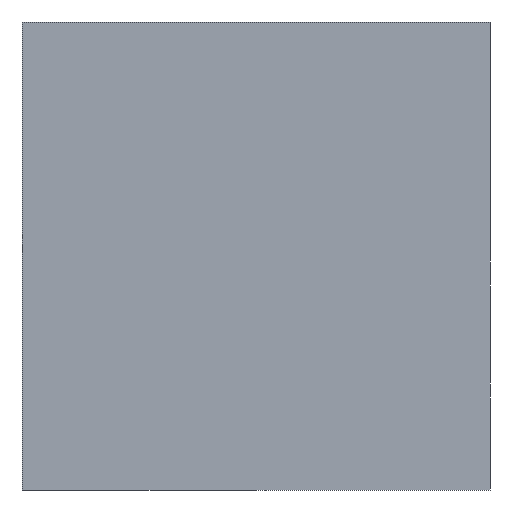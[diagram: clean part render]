
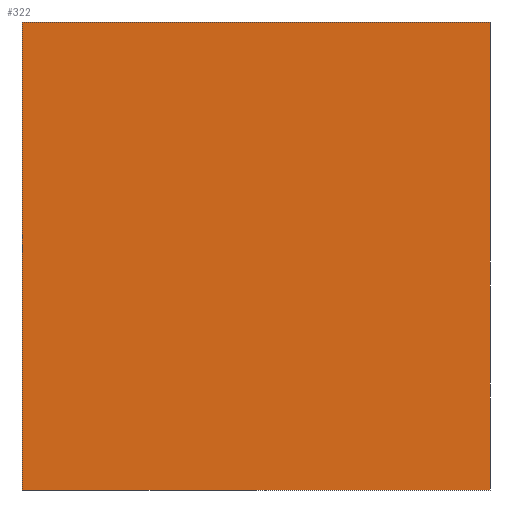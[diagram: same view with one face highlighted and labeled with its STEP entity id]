
A CAD part, left-side view. The second image highlights one B-rep face of the part: STEP entity #322.
In plain terms, the highlighted planar face has unit normal (-1, 0, 0).
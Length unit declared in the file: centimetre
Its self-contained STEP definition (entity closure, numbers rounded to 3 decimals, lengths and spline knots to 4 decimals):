
#10 = LINE ( 'NONE', #187, #288 ) ;
#14 = EDGE_CURVE ( 'NONE', #195, #157, #239, .T. ) ;
#30 = ORIENTED_EDGE ( 'NONE', *, *, #292, .F. ) ;
#48 = DIRECTION ( 'NONE',  ( 0., 0., -1. ) ) ;
#72 = VECTOR ( 'NONE', #266, 100. ) ;
#79 = PLANE ( 'NONE',  #340 ) ;
#88 = CARTESIAN_POINT ( 'NONE',  ( 0., 0., 1000. ) ) ;
#94 = ORIENTED_EDGE ( 'NONE', *, *, #14, .T. ) ;
#134 = VERTEX_POINT ( 'NONE', #367 ) ;
#157 = VERTEX_POINT ( 'NONE', #328 ) ;
#185 = ORIENTED_EDGE ( 'NONE', *, *, #419, .F. ) ;
#186 = VECTOR ( 'NONE', #425, 100. ) ;
#187 = CARTESIAN_POINT ( 'NONE',  ( 0., 1000., 1000. ) ) ;
#193 = VERTEX_POINT ( 'NONE', #286 ) ;
#195 = VERTEX_POINT ( 'NONE', #293 ) ;
#229 = DIRECTION ( 'NONE',  ( 0., -1., 0. ) ) ;
#236 = LINE ( 'NONE', #412, #72 ) ;
#239 = LINE ( 'NONE', #384, #186 ) ;
#261 = DIRECTION ( 'NONE',  ( 1., 0., 0. ) ) ;
#263 = DIRECTION ( 'NONE',  ( 0., 0., -1. ) ) ;
#266 = DIRECTION ( 'NONE',  ( 0., -1., 0. ) ) ;
#269 = LINE ( 'NONE', #88, #410 ) ;
#286 = CARTESIAN_POINT ( 'NONE',  ( 0., 0., 1000. ) ) ;
#288 = VECTOR ( 'NONE', #229, 100. ) ;
#292 = EDGE_CURVE ( 'NONE', #195, #193, #10, .T. ) ;
#293 = CARTESIAN_POINT ( 'NONE',  ( 0., 1000., 1000. ) ) ;
#297 = FACE_OUTER_BOUND ( 'NONE', #352, .T. ) ;
#304 = EDGE_CURVE ( 'NONE', #157, #134, #236, .T. ) ;
#322 = ADVANCED_FACE ( 'NONE', ( #297 ), #79, .F. ) ;
#328 = CARTESIAN_POINT ( 'NONE',  ( 0., 1000., 0. ) ) ;
#340 = AXIS2_PLACEMENT_3D ( 'NONE', #371, #261, #263 ) ;
#349 = ORIENTED_EDGE ( 'NONE', *, *, #304, .T. ) ;
#352 = EDGE_LOOP ( 'NONE', ( #349, #185, #30, #94 ) ) ;
#367 = CARTESIAN_POINT ( 'NONE',  ( 0., 0., 0. ) ) ;
#371 = CARTESIAN_POINT ( 'NONE',  ( 0., 1000., 1000. ) ) ;
#384 = CARTESIAN_POINT ( 'NONE',  ( 0., 1000., 1000. ) ) ;
#410 = VECTOR ( 'NONE', #48, 100. ) ;
#412 = CARTESIAN_POINT ( 'NONE',  ( 0., 1000., 0. ) ) ;
#419 = EDGE_CURVE ( 'NONE', #193, #134, #269, .T. ) ;
#425 = DIRECTION ( 'NONE',  ( 0., 0., -1. ) ) ;
